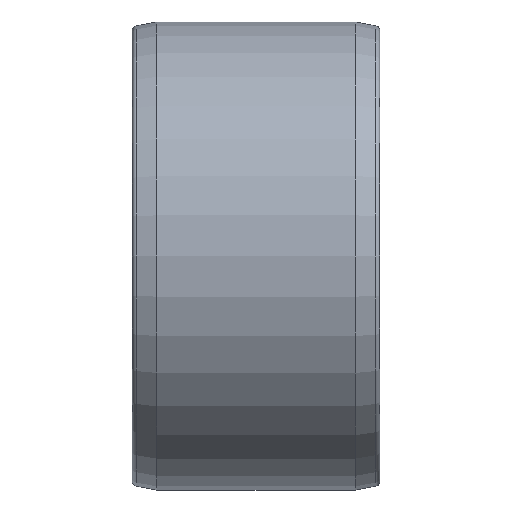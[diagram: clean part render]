
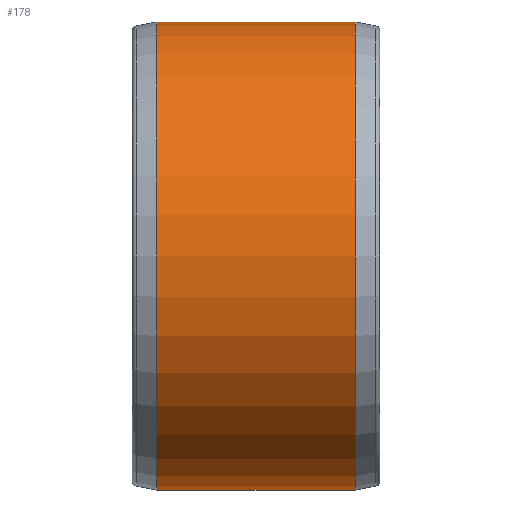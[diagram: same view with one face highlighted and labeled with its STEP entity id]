
A CAD part, front view. The second image highlights one B-rep face of the part: STEP entity #178.
In plain terms, the highlighted cylindrical face has radius 112.5 mm (diameter 225 mm), a full revolution.
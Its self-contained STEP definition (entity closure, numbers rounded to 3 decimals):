
#20=CYLINDRICAL_SURFACE('',#210,112.5);
#38=FACE_BOUND('',#82,.T.);
#53=FACE_OUTER_BOUND('',#81,.T.);
#81=EDGE_LOOP('',(#156));
#82=EDGE_LOOP('',(#157));
#92=CIRCLE('',#196,112.5);
#98=CIRCLE('',#207,112.5);
#107=VERTEX_POINT('',#296);
#113=VERTEX_POINT('',#313);
#122=EDGE_CURVE('',#107,#107,#92,.T.);
#128=EDGE_CURVE('',#113,#113,#98,.T.);
#156=ORIENTED_EDGE('',*,*,#122,.F.);
#157=ORIENTED_EDGE('',*,*,#128,.F.);
#178=ADVANCED_FACE('',(#53,#38),#20,.T.);
#196=AXIS2_PLACEMENT_3D('',#297,#242,#243);
#207=AXIS2_PLACEMENT_3D('',#314,#264,#265);
#210=AXIS2_PLACEMENT_3D('',#318,#270,#271);
#242=DIRECTION('center_axis',(1.,0.,0.));
#243=DIRECTION('ref_axis',(0.,0.,-1.));
#264=DIRECTION('center_axis',(-1.,0.,0.));
#265=DIRECTION('ref_axis',(0.,-1.,0.));
#270=DIRECTION('center_axis',(1.,0.,0.));
#271=DIRECTION('ref_axis',(0.,1.,0.));
#296=CARTESIAN_POINT('',(-11.9,112.5,0.));
#297=CARTESIAN_POINT('Origin',(-11.9,0.,0.));
#313=CARTESIAN_POINT('',(-107.1,112.5,0.));
#314=CARTESIAN_POINT('Origin',(-107.1,0.,0.));
#318=CARTESIAN_POINT('Origin',(-65.45,0.,0.));
